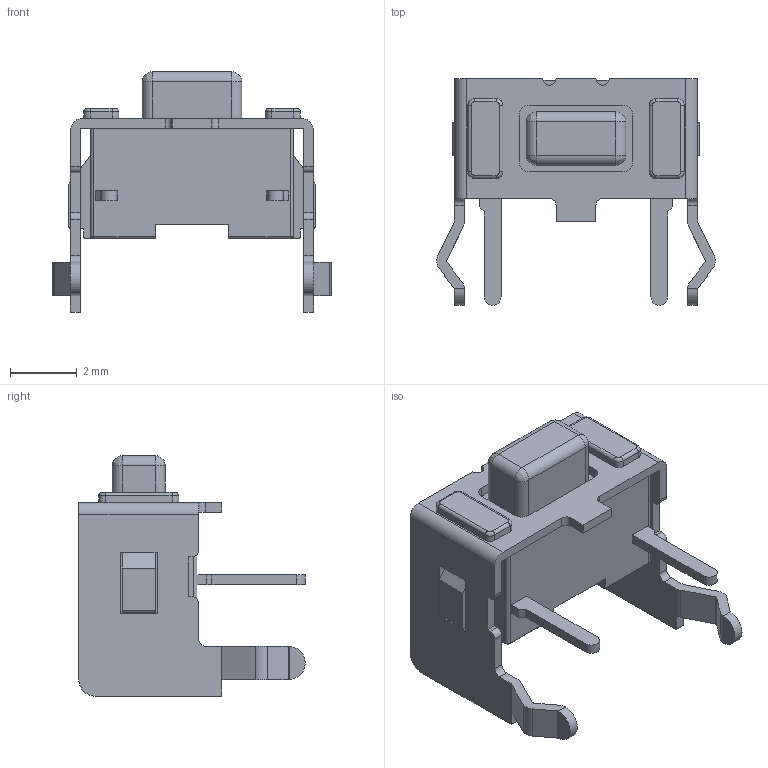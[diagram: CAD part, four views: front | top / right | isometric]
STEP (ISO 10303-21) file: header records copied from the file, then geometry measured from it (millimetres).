
FILE_DESCRIPTION (( 'STEP AP214' ), '1' );
FILE_NAME ('SKHLLD.STEP', '2019-09-26T00:56:32', ( '' ), ( '' ), 'SwSTEP 2.0', 'SolidWorks 2017', '' );
FILE_SCHEMA (( 'AUTOMOTIVE_DESIGN' ));
Length unit declared in the file: millimetre
Products named in the file (2): SKHL-L^SKHLLC; SKHLLD
Assembly tree (1 placements, depth 2):
  SKHLLD
    SKHL-L^SKHLLC
Bounding box: 8.38 x 6.8 x 7.22 mm (x, y, z)
Volume: 98.2 mm3; surface area: 265.3 mm2
Topology: 3 solids, 3 shells, 236 faces, 632 edges, 406 vertices
Faces by surface type: plane 140, cylinder 82, bspline 14
Entity records: 10157 total; most frequent: CARTESIAN_POINT 1544, ORIENTED_EDGE 1256, DIRECTION 1232, EDGE_CURVE 628, VECTOR 440, LINE 440, VERTEX_POINT 406, AXIS2_PLACEMENT_3D 396
